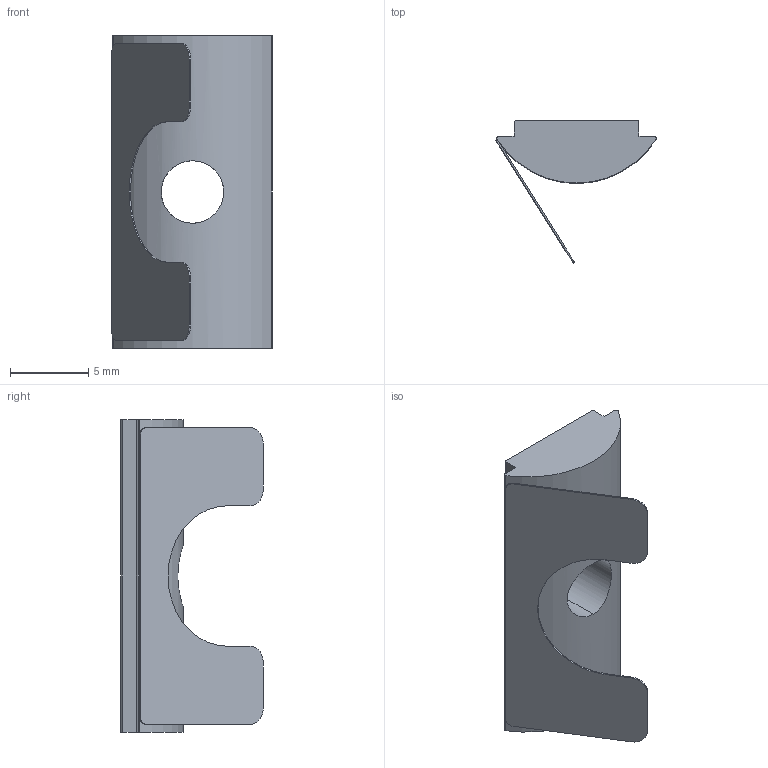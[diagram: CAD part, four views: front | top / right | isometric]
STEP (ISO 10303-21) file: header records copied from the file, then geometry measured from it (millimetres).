
FILE_DESCRIPTION (( 'STEP AP203' ), '1' );
FILE_NAME ('230YS04.STEP', '2018-07-03T12:38:02', ( '' ), ( '' ), 'SwSTEP 2.0', 'SolidWorks 2014', '' );
FILE_SCHEMA (( 'CONFIG_CONTROL_DESIGN' ));
Length unit declared in the file: millimetre
Products named in the file (3): SOMUN YAYI-30; 230YS04; 230YS04 GÖVDE
Assembly tree (2 placements, depth 2):
  230YS04
    230YS04 GÖVDE
    SOMUN YAYI-30
Bounding box: 10.27 x 9.11 x 20 mm (x, y, z)
Volume: 564.2 mm3; surface area: 818.7 mm2
Topology: 2 solids, 2 shells, 31 faces, 81 edges, 54 vertices
Faces by surface type: plane 16, cylinder 15
Entity records: 1326 total; most frequent: CARTESIAN_POINT 229, DIRECTION 179, ORIENTED_EDGE 162, EDGE_CURVE 81, AXIS2_PLACEMENT_3D 64, VERTEX_POINT 54, LINE 51, VECTOR 51
